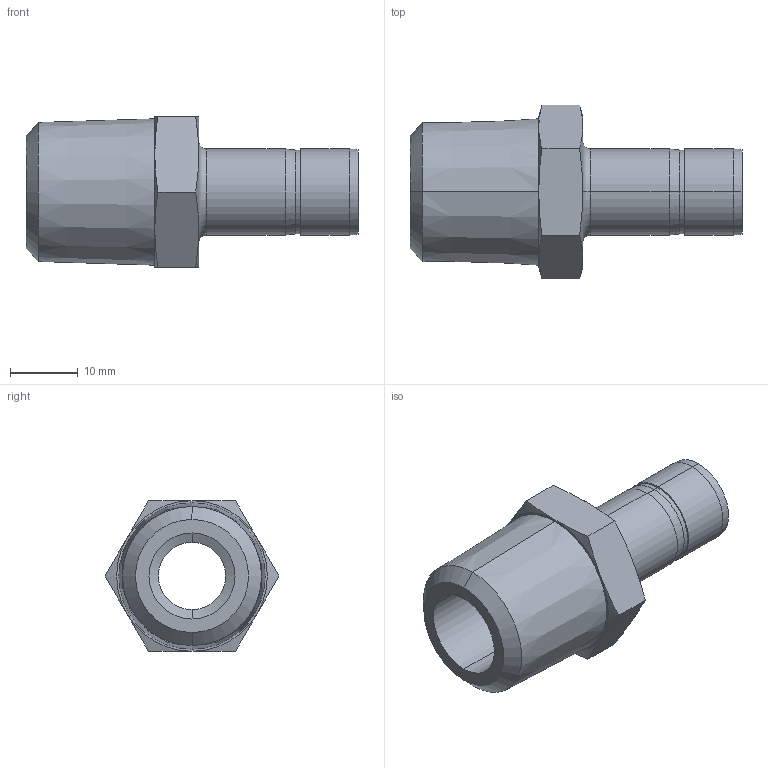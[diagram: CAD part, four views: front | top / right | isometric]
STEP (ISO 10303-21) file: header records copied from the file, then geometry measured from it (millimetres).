
FILE_DESCRIPTION (( 'STEP AP203' ), '1' );
FILE_NAME ('DHA08-08 SS.STEP', '2009-09-08T06:15:00', ( ' ' ), ( '' ), 'SwSTEP 2.0', 'SolidWorks 2008', '' );
FILE_SCHEMA (( 'CONFIG_CONTROL_DESIGN' ));
Length unit declared in the file: millimetre
Products named in the file (1): DHA08-08 SS
Bounding box: 49 x 25.67 x 22.23 mm (x, y, z)
Volume: 7450.5 mm3; surface area: 4927.8 mm2
Topology: 1 solids, 1 shells, 46 faces, 96 edges, 54 vertices
Faces by surface type: cone 24, cylinder 10, plane 10, torus 2
Entity records: 1357 total; most frequent: CARTESIAN_POINT 317, DIRECTION 210, ORIENTED_EDGE 192, EDGE_CURVE 96, AXIS2_PLACEMENT_3D 91, VERTEX_POINT 54, EDGE_LOOP 50, ADVANCED_FACE 46
